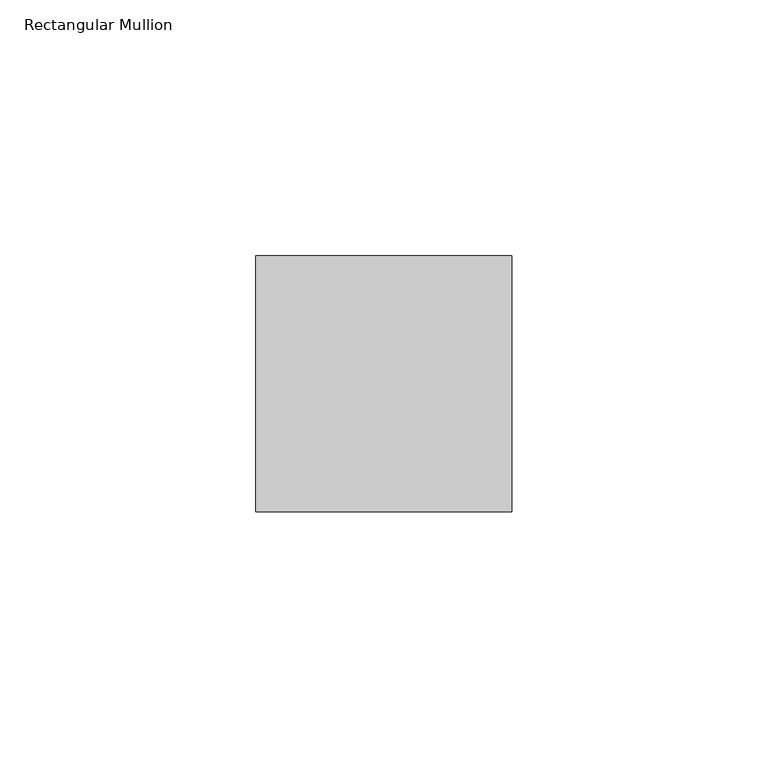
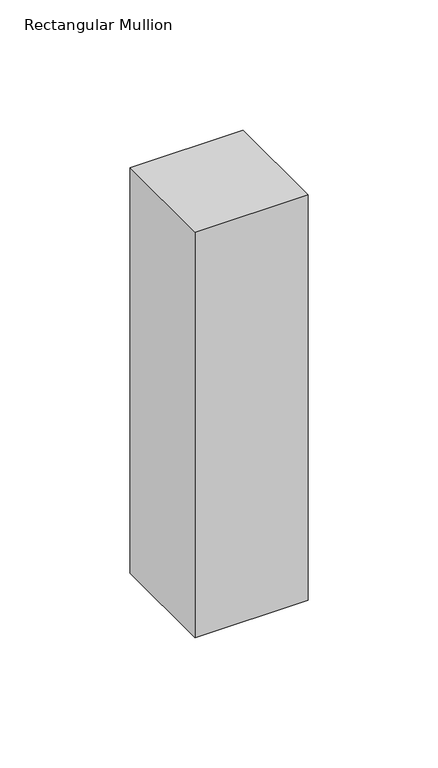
"""IFC4 building model written with IfcOpenShell, lengths in millimetres: member geometry, Rectangular Mullion : RSen_21_CWM_support profile 50x50 - left_gen_duco projects."""

from ifc_helpers import new_model, si_unit, frame, origin, place, context, project, spatial, polyline, outline, extrude, source, transform, mapped, element, save


def rectangular_mullion_768f3252(model_context):
    return source(origin(), model_context, "Body", "SweptSolid", [
        extrude(outline(polyline([(0.0, 1.0), (0.0, -49.0), (-50.0, -49.0), (-50.0, 1.0), (0.0, 1.0)])), frame((0.0, 0.0, -190.0), z_axis=(0.0, 0.0, 1.0), x_axis=(1.0, 0.0, 0.0)), (0.0, 0.0, 1.0), 190.0),
    ])


if __name__ == "__main__":
    model = new_model("IFC4")
    model_context = context("Model", 3, world=origin())
    ifc_project = project(units=[si_unit("LENGTHUNIT", "METRE", prefix="MILLI")], contexts=[model_context])
    site = spatial("IfcSite", under=ifc_project)
    building = spatial("IfcBuilding", under=site)
    placement = place(None, origin())
    rectangular_mullion_shape = rectangular_mullion_768f3252(model_context)
    element("IfcMember", 1, ObjectType="Rectangular Mullion : RSen_21_CWM_support profile 50x50 - left_gen_duco projects", at=placement, inside=building, context=model_context, shape_type="MappedRepresentation", body=[
        mapped(rectangular_mullion_shape, transform((0.0, 0.0, 0.0), x_axis=(1.0, 0.0, 0.0), y_axis=(0.0, 1.0, 0.0), z_axis=(0.0, 0.0, 1.0))),
    ])
    save(model, "model.ifc")
